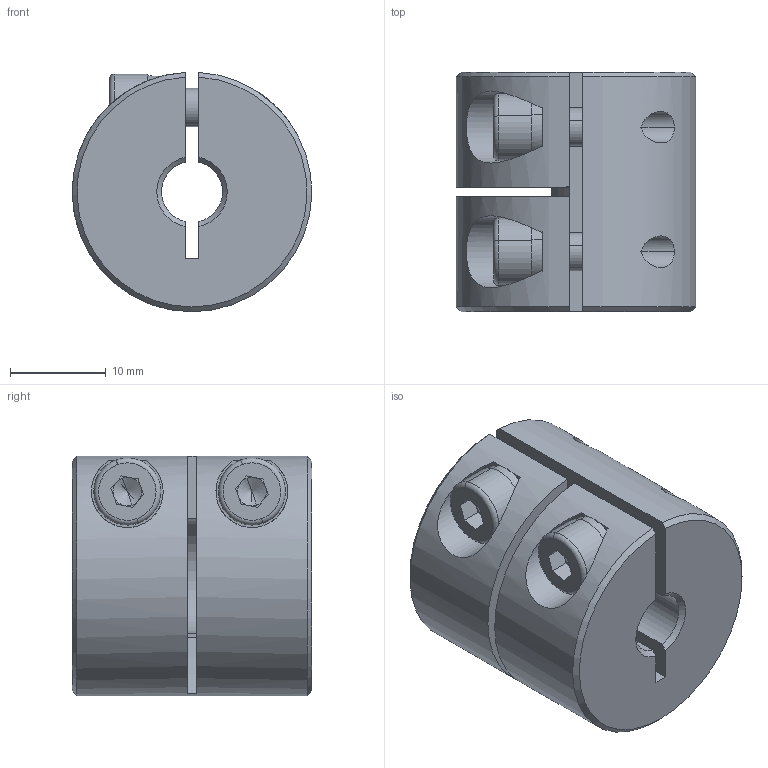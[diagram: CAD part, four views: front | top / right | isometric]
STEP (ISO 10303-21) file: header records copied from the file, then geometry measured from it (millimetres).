
FILE_DESCRIPTION (( 'STEP AP203' ), '1' );
FILE_NAME ('LL-B-D25L25-6.35-12.STEP', '2021-11-05T06:34:31', ( '' ), ( '' ), 'SwSTEP 2.0', 'SolidWorks 2018', '' );
FILE_SCHEMA (( 'CONFIG_CONTROL_DESIGN' ));
Length unit declared in the file: millimetre
Products named in the file (1): LL-B-D25L25-6.35-12
Bounding box: 24.99 x 25 x 24.98 mm (x, y, z)
Volume: 9684.4 mm3; surface area: 4953.6 mm2
Topology: 1 solids, 1 shells, 104 faces, 270 edges, 170 vertices
Faces by surface type: plane 52, cylinder 37, cone 11, torus 4
Entity records: 3471 total; most frequent: CARTESIAN_POINT 815, DIRECTION 560, ORIENTED_EDGE 532, EDGE_CURVE 266, AXIS2_PLACEMENT_3D 215, VERTEX_POINT 170, LINE 130, VECTOR 130
